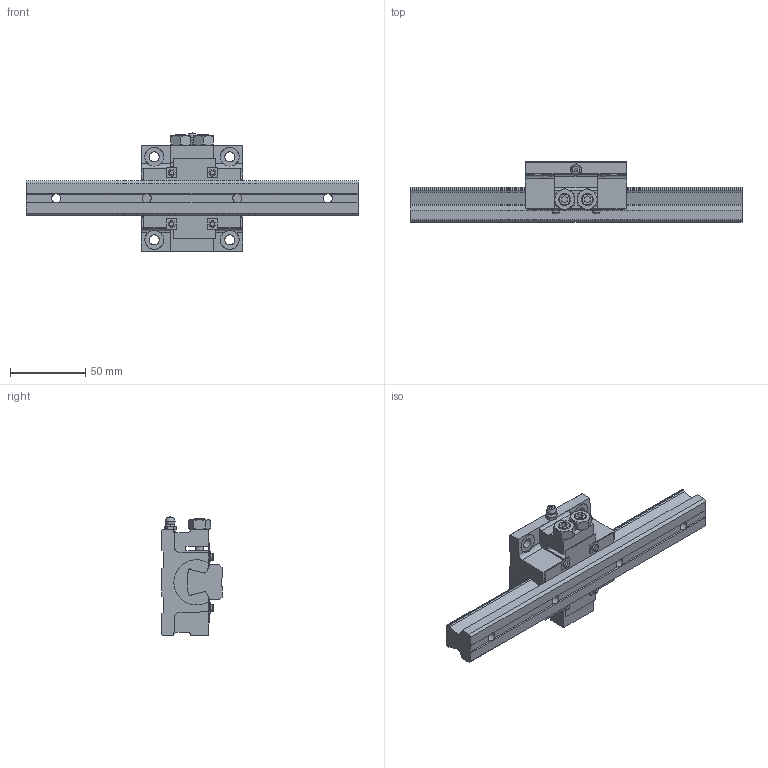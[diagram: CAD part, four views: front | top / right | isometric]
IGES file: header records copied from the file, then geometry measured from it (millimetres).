
Start section: Data from Parasolid IGES Translator 26.0.171, Copyright(c) 2006 Siemens PLM Software. All Rights Reserved.
Global section: file name: NSR20TBC1-220L_G20_0_A-M6F_76-5_0_0_0.igs; native system: By Siemens PLM Incorporated; preprocessor: XPlus GENERIC/IGES 26.0.171; author: Noname; organization: Noname; date: 20240521.121220; units: millimetre
Bounding box: 220 x 40 x 78.41 mm (x, y, z)
Surface area: 44492.8 mm2 (no closed solid volume)
Topology: 0 solids, 0 shells, 277 faces, 1479 edges, 1441 vertices
Faces by surface type: extrusion 178, revolution 99
